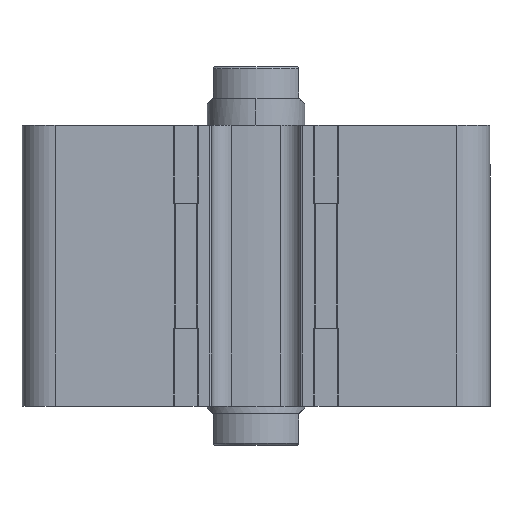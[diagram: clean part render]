
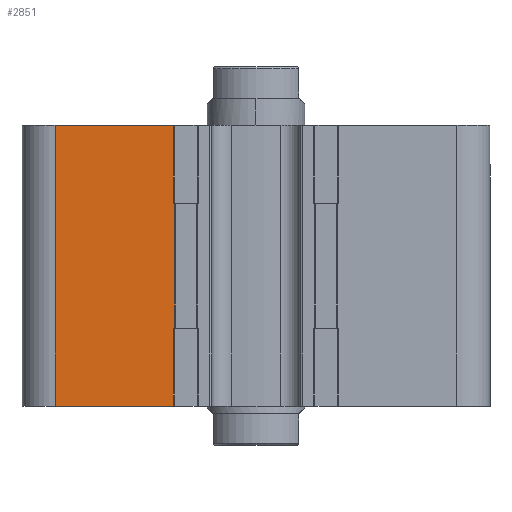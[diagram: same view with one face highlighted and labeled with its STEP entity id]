
A CAD part, left-side view. The second image highlights one B-rep face of the part: STEP entity #2851.
In plain terms, the highlighted planar face has unit normal (-1, 0, 0).
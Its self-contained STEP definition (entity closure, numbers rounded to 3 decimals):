
#142 = EDGE_LOOP ( 'NONE', ( #8486, #8487, #8488, #8489, #8490, #8491, #8492, #8493 ) ) ;
#188 = VERTEX_POINT ( 'NONE', #3263 ) ;
#1218 = CARTESIAN_POINT ( 'NONE',  ( -60., 60., -20. ) ) ;
#1219 = DIRECTION ( 'NONE',  ( 0., 1., 0. ) ) ;
#1535 = DIRECTION ( 'NONE',  ( 0., -1., 0. ) ) ;
#1539 = CARTESIAN_POINT ( 'NONE',  ( -60., 60., 0. ) ) ;
#1553 = CARTESIAN_POINT ( 'NONE',  ( -60., 51.5, 32. ) ) ;
#1554 = DIRECTION ( 'NONE',  ( 0., 0., -1. ) ) ;
#1555 = CARTESIAN_POINT ( 'NONE',  ( -60., 21.2, 203.606 ) ) ;
#1556 = DIRECTION ( 'NONE',  ( 0., 0., -1. ) ) ;
#1557 = CARTESIAN_POINT ( 'NONE',  ( -60., 20.875, 32. ) ) ;
#1558 = DIRECTION ( 'NONE',  ( 0., 0., 1. ) ) ;
#1559 = CARTESIAN_POINT ( 'NONE',  ( -60., 21.2, 203.606 ) ) ;
#1561 = DIRECTION ( 'NONE',  ( 0., 0., -1. ) ) ;
#1966 = DIRECTION ( 'NONE',  ( 0., -1., 0. ) ) ;
#1970 = CARTESIAN_POINT ( 'NONE',  ( -60., 60., 32. ) ) ;
#2851 = ADVANCED_FACE ( 'NONE', ( #16194 ), #3298, .F. ) ;
#3263 = CARTESIAN_POINT ( 'NONE',  ( -60., 51.5, -20. ) ) ;
#3292 = CARTESIAN_POINT ( 'NONE',  ( -60., 60., 32. ) ) ;
#3298 = PLANE ( 'NONE',  #15839 ) ;
#3300 = DIRECTION ( 'NONE',  ( 1., 0., 0. ) ) ;
#3301 = DIRECTION ( 'NONE',  ( 0., 1., 0. ) ) ;
#5099 = LINE ( 'NONE', #5690, #5101 ) ;
#5101 = VECTOR ( 'NONE', #5691, 1000. ) ;
#5690 = CARTESIAN_POINT ( 'NONE',  ( -60., 60., 52. ) ) ;
#5691 = DIRECTION ( 'NONE',  ( 0., -1., 0. ) ) ;
#5817 = CARTESIAN_POINT ( 'NONE',  ( -60., 21.2, 52. ) ) ;
#5818 = CARTESIAN_POINT ( 'NONE',  ( -60., 51.5, 52. ) ) ;
#5865 = CARTESIAN_POINT ( 'NONE',  ( -60., 21.2, -20. ) ) ;
#5945 = CARTESIAN_POINT ( 'NONE',  ( -60., 20.875, 32. ) ) ;
#5946 = CARTESIAN_POINT ( 'NONE',  ( -60., 21.2, 32. ) ) ;
#6710 = EDGE_CURVE ( 'NONE', #6817, #6816, #5099, .T. ) ;
#6816 = VERTEX_POINT ( 'NONE', #5817 ) ;
#6817 = VERTEX_POINT ( 'NONE', #5818 ) ;
#6887 = VERTEX_POINT ( 'NONE', #5865 ) ;
#6967 = VERTEX_POINT ( 'NONE', #5945 ) ;
#6968 = VERTEX_POINT ( 'NONE', #5946 ) ;
#7891 = VERTEX_POINT ( 'NONE', #10071 ) ;
#7939 = VERTEX_POINT ( 'NONE', #10119 ) ;
#8486 = ORIENTED_EDGE ( 'NONE', *, *, #9376, .T. ) ;
#8487 = ORIENTED_EDGE ( 'NONE', *, *, #9264, .F. ) ;
#8488 = ORIENTED_EDGE ( 'NONE', *, *, #9377, .F. ) ;
#8489 = ORIENTED_EDGE ( 'NONE', *, *, #9371, .T. ) ;
#8490 = ORIENTED_EDGE ( 'NONE', *, *, #9378, .T. ) ;
#8491 = ORIENTED_EDGE ( 'NONE', *, *, #15517, .F. ) ;
#8492 = ORIENTED_EDGE ( 'NONE', *, *, #9379, .F. ) ;
#8493 = ORIENTED_EDGE ( 'NONE', *, *, #6710, .F. ) ;
#9264 = EDGE_CURVE ( 'NONE', #6887, #188, #12084, .T. ) ;
#9371 = EDGE_CURVE ( 'NONE', #7891, #7939, #12247, .T. ) ;
#9376 = EDGE_CURVE ( 'NONE', #6817, #188, #12256, .T. ) ;
#9377 = EDGE_CURVE ( 'NONE', #7891, #6887, #12258, .T. ) ;
#9378 = EDGE_CURVE ( 'NONE', #7939, #6967, #12260, .T. ) ;
#9379 = EDGE_CURVE ( 'NONE', #6816, #6968, #12262, .T. ) ;
#10071 = CARTESIAN_POINT ( 'NONE',  ( -60., 21.2, 0. ) ) ;
#10119 = CARTESIAN_POINT ( 'NONE',  ( -60., 20.875, 0. ) ) ;
#12084 = LINE ( 'NONE', #1218, #12086 ) ;
#12086 = VECTOR ( 'NONE', #1219, 1000. ) ;
#12247 = LINE ( 'NONE', #1539, #12249 ) ;
#12249 = VECTOR ( 'NONE', #1535, 1000. ) ;
#12256 = LINE ( 'NONE', #1553, #12259 ) ;
#12258 = LINE ( 'NONE', #1555, #12261 ) ;
#12259 = VECTOR ( 'NONE', #1554, 1000. ) ;
#12260 = LINE ( 'NONE', #1557, #12263 ) ;
#12261 = VECTOR ( 'NONE', #1556, 1000. ) ;
#12262 = LINE ( 'NONE', #1559, #12265 ) ;
#12263 = VECTOR ( 'NONE', #1558, 1000. ) ;
#12265 = VECTOR ( 'NONE', #1561, 1000. ) ;
#12377 = LINE ( 'NONE', #1970, #12379 ) ;
#12379 = VECTOR ( 'NONE', #1966, 1000. ) ;
#15517 = EDGE_CURVE ( 'NONE', #6968, #6967, #12377, .T. ) ;
#15839 = AXIS2_PLACEMENT_3D ( 'NONE', #3292, #3300, #3301 ) ;
#16194 = FACE_OUTER_BOUND ( 'NONE', #142, .T. ) ;
